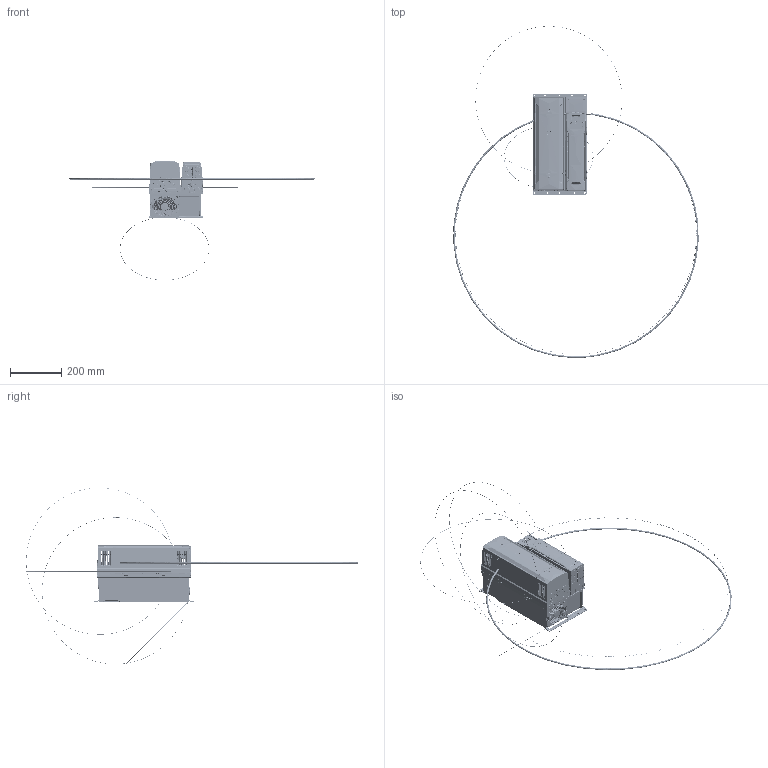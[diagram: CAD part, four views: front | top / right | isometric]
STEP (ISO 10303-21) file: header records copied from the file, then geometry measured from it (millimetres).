
FILE_DESCRIPTION((''),'2;1');
FILE_NAME('OUTER_STEP_SW0003','2014-02-20T',('jackne01'),(''),'PRO/ENGINEER BY PARAMETRIC TECHNOLOGY CORPORATION, 2011490','PRO/ENGINEER BY PARAMETRIC TECHNOLOGY CORPORATION, 2011490','');
FILE_SCHEMA(('CONFIG_CONTROL_DESIGN'));
Products named in the file (1): OUTER_STEP_SW0003
Bounding box: 953.59 x 1289.86 x 685.86 mm (x, y, z)
Surface area: 1768561.7 mm2 (no closed solid volume)
Topology: 0 solids, 0 shells, 10523 faces, 77011 edges, 76260 vertices
Faces by surface type: bspline 9624, torus 718, sphere 181
Entity records: 1351678 total; most frequent: CARTESIAN_POINT 642385, DIRECTION 112342, TRIMMED_CURVE 101948, VECTOR 93352, LINE 93352, DEFINITIONAL_REPRESENTATION 75496, PCURVE 75496, COMPOSITE_CURVE_SEGMENT 75496
